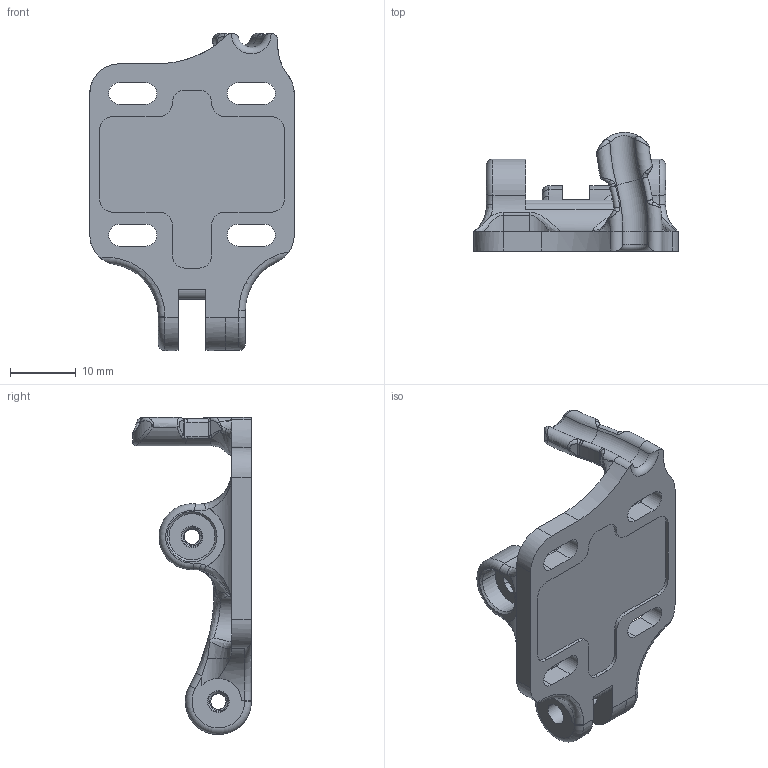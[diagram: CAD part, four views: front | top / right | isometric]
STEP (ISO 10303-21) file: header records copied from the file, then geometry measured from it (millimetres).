
FILE_DESCRIPTION(('CATIA V5 STEP Exchange'),'2;1');
FILE_NAME('E:\Dropbox\3D Printer Fan Duct Designs\1.) Artillery Sidewinder X1\3D Models\5015 Double Ducts\VOLCANO\Volcano ALL Step Files\Insert\RH Fan Bracket Insert.stp','2021-03-06T11:18:55+00:00',('none'),('none'),'CATIA Version 5 Release 20 SP 1 (IN-10)','CATIA V5 STEP AP214','none');
FILE_SCHEMA(('AUTOMOTIVE_DESIGN { 1 0 10303 214 1 1 1 1 }'));
Products named in the file (1): ADATTATORE_X_DOPPIA_5015_SIMMETRICO
Bounding box: 31 x 18 x 48.1 mm (x, y, z)
Volume: 5971.3 mm3; surface area: 4537.7 mm2
Topology: 3 solids, 3 shells, 1180 faces, 3177 edges, 2011 vertices
Faces by surface type: bspline 774, cylinder 297, plane 62, torus 26, cone 20, extrusion 1
Entity records: 42205 total; most frequent: CARTESIAN_POINT 21607, ORIENTED_EDGE 6350, EDGE_CURVE 3175, VERTEX_POINT 2011, DIRECTION 1660, EDGE_LOOP 1210, ADVANCED_FACE 1180, FACE_OUTER_BOUND 1180
